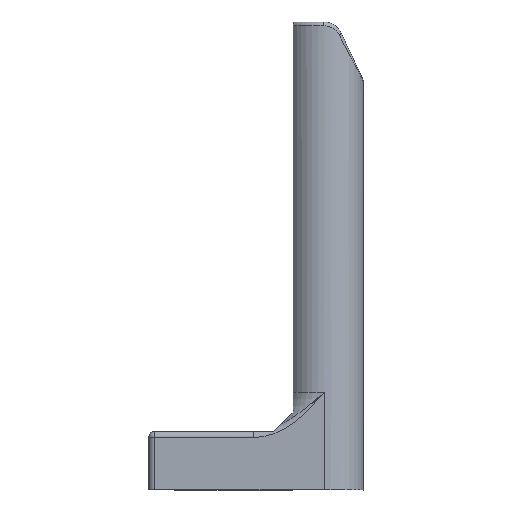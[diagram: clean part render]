
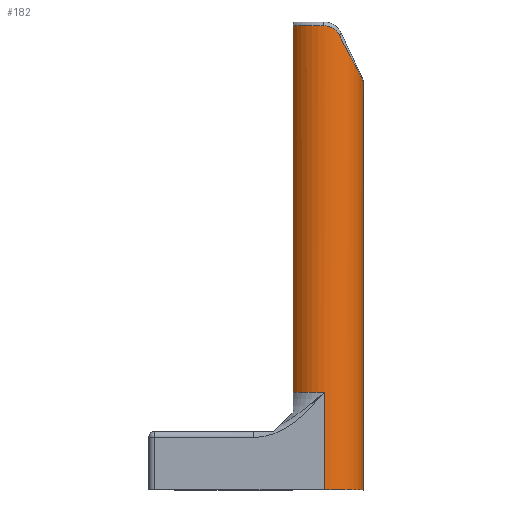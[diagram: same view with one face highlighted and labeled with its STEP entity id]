
A CAD part, front view. The second image highlights one B-rep face of the part: STEP entity #182.
In plain terms, the highlighted cylindrical face has radius 10 mm (diameter 20 mm), a partial arc.
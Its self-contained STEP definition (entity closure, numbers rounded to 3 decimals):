
#75=CARTESIAN_POINT('Control Point',(3.828,-9.238,116.69)) ;
#76=CARTESIAN_POINT('Control Point',(4.735,-8.862,114.94)) ;
#77=CARTESIAN_POINT('Control Point',(6.437,-7.842,111.655)) ;
#78=CARTESIAN_POINT('Control Point',(8.436,-5.636,107.797)) ;
#79=CARTESIAN_POINT('Control Point',(9.709,-2.945,105.34)) ;
#80=CARTESIAN_POINT('Control Point',(10.,-0.982,104.778)) ;
#81=CARTESIAN_POINT('Control Point',(10.,0.,104.778)) ;
#82=CARTESIAN_POINT('Vertex',(10.,0.,104.778)) ;
#84=CARTESIAN_POINT('Vertex',(3.828,-9.238,116.69)) ;
#117=CARTESIAN_POINT('Axis2P3D Location',(0.,0.,120.)) ;
#122=CARTESIAN_POINT('Line Origine',(10.,0.,120.)) ;
#126=CARTESIAN_POINT('Vertex',(10.,0.,0.)) ;
#130=CARTESIAN_POINT('Control Point',(3.828,-9.238,116.69)) ;
#131=CARTESIAN_POINT('Control Point',(3.378,-9.425,117.558)) ;
#132=CARTESIAN_POINT('Control Point',(2.672,-9.687,118.254)) ;
#133=CARTESIAN_POINT('Control Point',(1.778,-9.915,118.752)) ;
#134=CARTESIAN_POINT('Control Point',(0.795,-10.018,119.)) ;
#135=CARTESIAN_POINT('Control Point',(-0.2,-9.998,119.)) ;
#136=CARTESIAN_POINT('Vertex',(-0.2,-9.998,119.)) ;
#139=CARTESIAN_POINT('Axis2P3D Location',(0.,0.,119.)) ;
#143=CARTESIAN_POINT('Vertex',(-8.,-6.,119.)) ;
#146=CARTESIAN_POINT('Line Origine',(-8.,-6.,120.)) ;
#150=CARTESIAN_POINT('Vertex',(-8.,-6.,25.)) ;
#153=CARTESIAN_POINT('Axis2P3D Location',(0.,0.,25.)) ;
#157=CARTESIAN_POINT('Vertex',(0.,-10.,25.)) ;
#160=CARTESIAN_POINT('Line Origine',(0.,-10.,120.)) ;
#164=CARTESIAN_POINT('Vertex',(0.,-10.,0.)) ;
#167=CARTESIAN_POINT('Axis2P3D Location',(0.,0.,0.)) ;
#118=DIRECTION('Axis2P3D Direction',(-0.,0.,-1.)) ;
#119=DIRECTION('Axis2P3D XDirection',(1.,0.,-0.)) ;
#123=DIRECTION('Vector Direction',(0.,0.,-1.)) ;
#140=DIRECTION('Axis2P3D Direction',(-0.,0.,-1.)) ;
#147=DIRECTION('Vector Direction',(0.,0.,-1.)) ;
#154=DIRECTION('Axis2P3D Direction',(-0.,0.,-1.)) ;
#161=DIRECTION('Vector Direction',(0.,0.,-1.)) ;
#168=DIRECTION('Axis2P3D Direction',(-0.,0.,-1.)) ;
#120=AXIS2_PLACEMENT_3D('Cylinder Axis2P3D',#117,#118,#119) ;
#141=AXIS2_PLACEMENT_3D('Circle Axis2P3D',#139,#140,$) ;
#155=AXIS2_PLACEMENT_3D('Circle Axis2P3D',#153,#154,$) ;
#169=AXIS2_PLACEMENT_3D('Circle Axis2P3D',#167,#168,$) ;
#173=ORIENTED_EDGE('',*,*,#128,.F.) ;
#174=ORIENTED_EDGE('',*,*,#86,.T.) ;
#175=ORIENTED_EDGE('',*,*,#138,.T.) ;
#176=ORIENTED_EDGE('',*,*,#145,.T.) ;
#177=ORIENTED_EDGE('',*,*,#152,.F.) ;
#178=ORIENTED_EDGE('',*,*,#159,.T.) ;
#179=ORIENTED_EDGE('',*,*,#166,.T.) ;
#180=ORIENTED_EDGE('',*,*,#171,.F.) ;
#124=VECTOR('Line Direction',#123,1.) ;
#148=VECTOR('Line Direction',#147,1.) ;
#162=VECTOR('Line Direction',#161,1.) ;
#182=ADVANCED_FACE('Importato1',(#181),#121,.T.) ;
#129=B_SPLINE_CURVE_WITH_KNOTS('',5,(#130,#131,#132,#133,#134,#135),.UNSPECIFIED.,.F.,.U.,(6,6),(0.,7.009),.UNSPECIFIED.) ;
#142=CIRCLE('generated circle',#141,10.) ;
#156=CIRCLE('generated circle',#155,10.) ;
#170=CIRCLE('generated circle',#169,10.) ;
#121=CYLINDRICAL_SURFACE('generated cylinder',#120,10.) ;
#86=EDGE_CURVE('',#83,#85,#74,.F.) ;
#128=EDGE_CURVE('',#83,#127,#125,.T.) ;
#138=EDGE_CURVE('',#85,#137,#129,.T.) ;
#145=EDGE_CURVE('',#137,#144,#142,.T.) ;
#152=EDGE_CURVE('',#151,#144,#149,.F.) ;
#159=EDGE_CURVE('',#151,#158,#156,.F.) ;
#166=EDGE_CURVE('',#158,#165,#163,.T.) ;
#171=EDGE_CURVE('',#127,#165,#170,.T.) ;
#172=EDGE_LOOP('',(#173,#174,#175,#176,#177,#178,#179,#180)) ;
#181=FACE_OUTER_BOUND('',#172,.T.) ;
#125=LINE('Line',#122,#124) ;
#149=LINE('Line',#146,#148) ;
#163=LINE('Line',#160,#162) ;
#83=VERTEX_POINT('',#82) ;
#85=VERTEX_POINT('',#84) ;
#127=VERTEX_POINT('',#126) ;
#137=VERTEX_POINT('',#136) ;
#144=VERTEX_POINT('',#143) ;
#151=VERTEX_POINT('',#150) ;
#158=VERTEX_POINT('',#157) ;
#165=VERTEX_POINT('',#164) ;
#74=(BOUNDED_CURVE()B_SPLINE_CURVE(3,(#75,#76,#77,#78,#79,#80,#81),.UNSPECIFIED.,.F.,.U.)B_SPLINE_CURVE_WITH_KNOTS((4,1,1,1,4),(5.105,9.383,13.66,17.937,22.215),.UNSPECIFIED.)CURVE()GEOMETRIC_REPRESENTATION_ITEM()RATIONAL_B_SPLINE_CURVE((1.,1.,1.,1.,1.,1.,1.))REPRESENTATION_ITEM('')) ;
